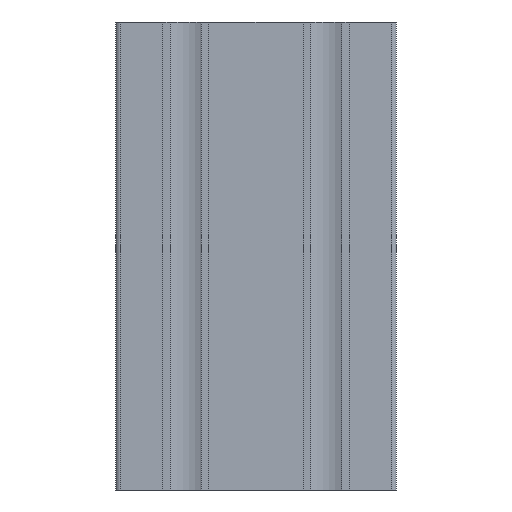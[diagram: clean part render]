
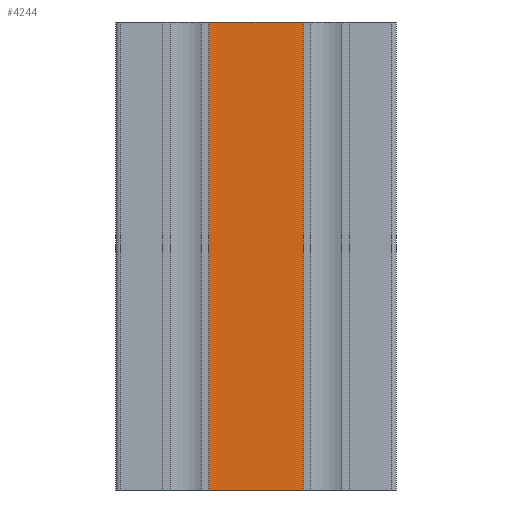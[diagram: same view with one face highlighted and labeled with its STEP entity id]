
A CAD part, front view. The second image highlights one B-rep face of the part: STEP entity #4244.
In plain terms, the highlighted planar face has unit normal (0, -1, 0).
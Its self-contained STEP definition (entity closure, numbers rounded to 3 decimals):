
#364=FACE_OUTER_BOUND('',#578,.T.);
#578=EDGE_LOOP('',(#3343,#3344,#3345,#3346));
#1026=LINE('',#6766,#1534);
#1027=LINE('',#6769,#1535);
#1028=LINE('',#6771,#1536);
#1029=LINE('',#6772,#1537);
#1534=VECTOR('',#5546,100.);
#1535=VECTOR('',#5549,20.2);
#1536=VECTOR('',#5550,20.2);
#1537=VECTOR('',#5551,100.);
#1981=VERTEX_POINT('',#6762);
#1982=VERTEX_POINT('',#6764);
#1983=VERTEX_POINT('',#6768);
#1984=VERTEX_POINT('',#6770);
#2560=EDGE_CURVE('',#1981,#1982,#1026,.T.);
#2561=EDGE_CURVE('',#1983,#1981,#1027,.T.);
#2562=EDGE_CURVE('',#1984,#1982,#1028,.T.);
#2563=EDGE_CURVE('',#1983,#1984,#1029,.T.);
#3343=ORIENTED_EDGE('',*,*,#2561,.T.);
#3344=ORIENTED_EDGE('',*,*,#2560,.T.);
#3345=ORIENTED_EDGE('',*,*,#2562,.F.);
#3346=ORIENTED_EDGE('',*,*,#2563,.F.);
#4039=PLANE('',#4558);
#4244=ADVANCED_FACE('',(#364),#4039,.T.);
#4558=AXIS2_PLACEMENT_3D('',#6767,#5547,#5548);
#5546=DIRECTION('',(0.,0.,1.));
#5547=DIRECTION('center_axis',(0.,-1.,0.));
#5548=DIRECTION('ref_axis',(1.,0.,0.));
#5549=DIRECTION('',(1.,0.,0.));
#5550=DIRECTION('',(1.,0.,0.));
#5551=DIRECTION('',(0.,0.,1.));
#6762=CARTESIAN_POINT('',(11.651,-30.11,0.));
#6764=CARTESIAN_POINT('',(11.651,-30.11,100.));
#6766=CARTESIAN_POINT('',(11.651,-30.11,0.));
#6767=CARTESIAN_POINT('Origin',(-8.549,-30.11,0.));
#6768=CARTESIAN_POINT('',(-8.549,-30.11,0.));
#6769=CARTESIAN_POINT('',(-8.549,-30.11,0.));
#6770=CARTESIAN_POINT('',(-8.549,-30.11,100.));
#6771=CARTESIAN_POINT('',(-8.549,-30.11,100.));
#6772=CARTESIAN_POINT('',(-8.549,-30.11,0.));
